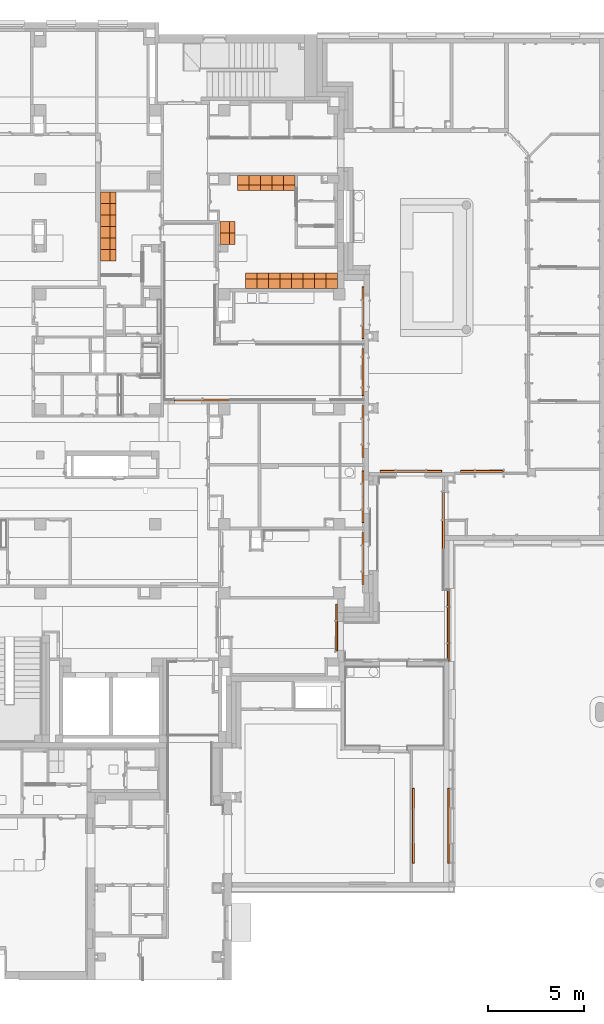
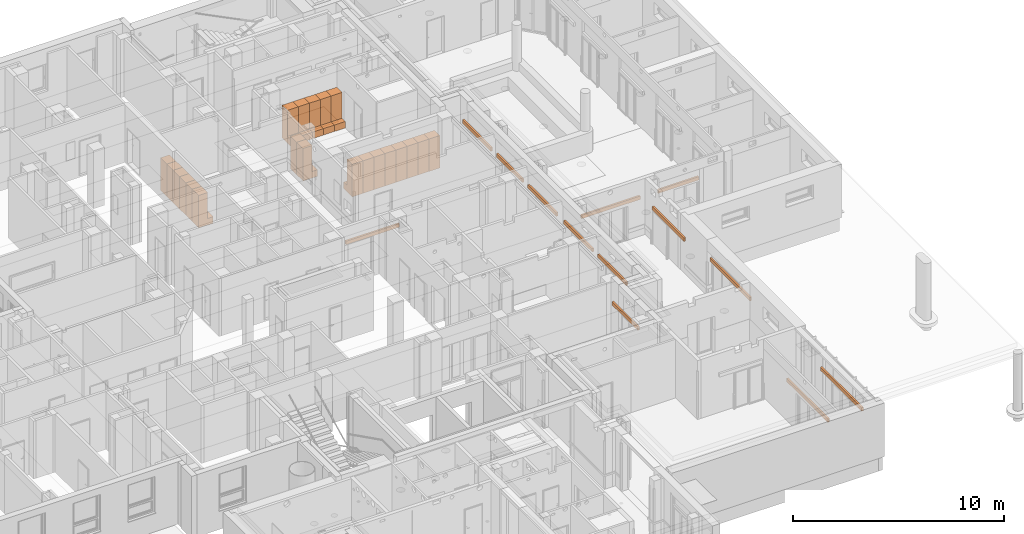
# One storey, part 139 of 140: 34 proxies, 21 elements without a shape of their own.
"""IFC4 building model written with IfcOpenShell, lengths in metres."""

from ifc_helpers import new_model, entity, si_unit, converted_unit, derived_unit, frame, origin, place, context, subcontext, project, spatial, faceted_brep, material, element, aggregate, save


model = new_model("IFC4")

# Units and contexts
model_context = context("Model", 3, precision=1e-05, world=origin())
body_context = subcontext(model_context, "Body", "Model", "MODEL_VIEW")
ifc_project = project(units=[si_unit("LENGTHUNIT", "METRE"), si_unit("AREAUNIT", "SQUARE_METRE"), si_unit("VOLUMEUNIT", "CUBIC_METRE"), si_unit("MASSUNIT", "GRAM", prefix="KILO"), converted_unit("PLANEANGLEUNIT", "DEGREE", entity("IfcPlaneAngleMeasure", 0.0174532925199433), si_unit("PLANEANGLEUNIT", "RADIAN"), dimensions=[0, 0, 0, 0, 0, 0, 0]), derived_unit("THERMALTRANSMITTANCEUNIT", [(si_unit("POWERUNIT", "WATT"), 1), (si_unit("THERMODYNAMICTEMPERATUREUNIT", "KELVIN"), -1), (si_unit("LENGTHUNIT", "METRE"), -2)]), derived_unit("VOLUMETRICFLOWRATEUNIT", [(si_unit("LENGTHUNIT", "METRE"), 3), (converted_unit("TIMEUNIT", "hour", entity("IfcTimeMeasure", 3600.0), si_unit("TIMEUNIT", "SECOND"), dimensions=[0, 0, 1, 0, 0, 0, 0]), -1), (si_unit("LENGTHUNIT", "METRE"), -1)])], contexts=[model_context])

# Site, building, storey
site_placement = place(None, origin())
site = spatial("IfcSite", under=ifc_project, at=site_placement, Name="3. ASŘ", CompositionType="ELEMENT")
building_placement = place(site_placement, origin())
building = spatial("IfcBuilding", under=site, at=building_placement, Name="Pavilon C", CompositionType="ELEMENT")
storey_placement = place(building_placement, origin())
storey = spatial("IfcBuildingStorey", under=building, at=storey_placement, Name="Půdorys 1.NP", CompositionType="ELEMENT", Elevation=0.0)

# Proxies
ifc_material_1 = material(Name="DVEŘNÍ POHON")
proxy_1_placement = place(storey_placement, frame((53.78, -10.4999999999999, 2.1)))
element("IfcBuildingElementProxy", 1, at=proxy_1_placement, inside=storey, material=ifc_material_1, context=body_context, shape_type="Brep", body=[
    faceted_brep([(0.0, 0.0, 0.0), (0.1, 0.0, 0.0), (0.1, 3.9, 0.0), (0.0, 3.9, 0.0), (0.1, 0.0, 0.2), (0.0, 0.0, 0.2), (0.0, 3.9, 0.2), (0.1, 3.9, 0.2)], [[[0, 1, 2, 3]], [[4, 5, 6, 7]], [[1, 0, 5, 4]], [[2, 1, 4, 7]], [[3, 2, 7, 6]], [[0, 3, 6, 5]]], orient=[[False], [False], [False], [False], [False], [False]]),
])
ifc_material_2 = material(Name="DVEŘNÍ POHON")
proxy_2_placement = place(storey_placement, frame((55.63, -10.4999999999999, 2.1)))
element("IfcBuildingElementProxy", 2, at=proxy_2_placement, inside=storey, material=ifc_material_2, context=body_context, shape_type="Brep", body=[
    faceted_brep([(2.91038304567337e-14, 0.0, 0.0), (0.100000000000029, 0.0, 0.0), (0.1, 3.90000000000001, 0.0), (0.0, 3.90000000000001, 0.0), (0.100000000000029, 0.0, 0.2), (2.91038304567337e-14, 0.0, 0.2), (0.0, 3.90000000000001, 0.2), (0.1, 3.90000000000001, 0.2)], [[[0, 1, 2, 3]], [[4, 5, 6, 7]], [[1, 0, 5, 4]], [[2, 1, 4, 7]], [[3, 2, 7, 6]], [[0, 3, 6, 5]]], orient=[[False], [False], [False], [False], [False], [False]]),
])
ifc_material_3 = material(Name="DVEŘNÍ POHON")
proxy_3_placement = place(storey_placement, frame((49.78, 0.58, 2.1)))
element("IfcBuildingElementProxy", 3, at=proxy_3_placement, inside=storey, material=ifc_material_3, context=body_context, shape_type="Brep", body=[
    faceted_brep([(0.0, 0.0, 0.0), (0.1, 0.0, 0.0), (0.1, 2.43999999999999, 0.0), (0.0, 2.43999999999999, 0.0), (0.1, 0.0, 0.2), (0.0, 0.0, 0.2), (0.0, 2.43999999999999, 0.2), (0.1, 2.43999999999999, 0.2)], [[[0, 1, 2, 3]], [[4, 5, 6, 7]], [[1, 0, 5, 4]], [[2, 1, 4, 7]], [[3, 2, 7, 6]], [[0, 3, 6, 5]]], orient=[[False], [False], [False], [False], [False], [False]]),
])
ifc_material_4 = material(Name="DVEŘNÍ POHON")
proxy_4_placement = place(storey_placement, frame((41.352, 13.625, 2.1)))
element("IfcBuildingElementProxy", 4, at=proxy_4_placement, inside=storey, material=ifc_material_4, context=body_context, shape_type="Brep", body=[
    faceted_brep([(2.923, 0.0, 0.0), (2.923, 0.1, 0.0), (0.0, 0.1, 0.0), (0.0, 0.0, 0.0), (2.923, 0.1, 0.2), (2.923, 0.0, 0.2), (0.0, 0.0, 0.2), (0.0, 0.1, 0.2)], [[[0, 1, 2, 3]], [[4, 5, 6, 7]], [[1, 0, 5, 4]], [[2, 1, 4, 7]], [[3, 2, 7, 6]], [[0, 3, 6, 5]]], orient=[[False], [False], [False], [False], [False], [False]]),
])
ifc_material_5 = material(Name="DVEŘNÍ POHON")
proxy_5_placement = place(storey_placement, frame((55.6, 0.0299999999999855, 2.1)))
element("IfcBuildingElementProxy", 5, at=proxy_5_placement, inside=storey, material=ifc_material_5, context=body_context, shape_type="Brep", body=[
    faceted_brep([(1.45519152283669e-14, -1.06581410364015e-17, 0.0), (0.100000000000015, -1.06581410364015e-17, 0.0), (0.1, 3.8, 0.0), (0.0, 3.8, 0.0), (0.100000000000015, -1.06581410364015e-17, 0.2), (1.45519152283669e-14, -1.06581410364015e-17, 0.2), (0.0, 3.8, 0.2), (0.1, 3.8, 0.2)], [[[0, 1, 2, 3]], [[4, 5, 6, 7]], [[1, 0, 5, 4]], [[2, 1, 4, 7]], [[3, 2, 7, 6]], [[0, 3, 6, 5]]], orient=[[False], [False], [False], [False], [False], [False]]),
])
ifc_material_6 = material(Name="DVEŘNÍ POHON")
proxy_6_placement = place(storey_placement, frame((51.15, 4.04999999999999, 2.1)))
element("IfcBuildingElementProxy", 6, at=proxy_6_placement, inside=storey, material=ifc_material_6, context=body_context, shape_type="Brep", body=[
    faceted_brep([(0.0, 0.0, 0.0), (0.1, 0.0, 0.0), (0.1, 2.7, 0.0), (0.0, 2.7, 0.0), (0.1, 0.0, 0.2), (0.0, 0.0, 0.2), (0.0, 2.7, 0.2), (0.1, 2.7, 0.2)], [[[0, 1, 2, 3]], [[4, 5, 6, 7]], [[1, 0, 5, 4]], [[2, 1, 4, 7]], [[3, 2, 7, 6]], [[0, 3, 6, 5]]], orient=[[False], [False], [False], [False], [False], [False]]),
])
ifc_material_7 = material(Name="DVEŘNÍ POHON")
proxy_7_placement = place(storey_placement, frame((51.15, 7.27499999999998, 2.1)))
element("IfcBuildingElementProxy", 7, at=proxy_7_placement, inside=storey, material=ifc_material_7, context=body_context, shape_type="Brep", body=[
    faceted_brep([(0.0, 0.0, 0.0), (0.1, 0.0, 0.0), (0.1, 2.7, 0.0), (0.0, 2.7, 0.0), (0.1, 0.0, 0.2), (0.0, 0.0, 0.2), (0.0, 2.7, 0.2), (0.1, 2.7, 0.2)], [[[0, 1, 2, 3]], [[4, 5, 6, 7]], [[1, 0, 5, 4]], [[2, 1, 4, 7]], [[3, 2, 7, 6]], [[0, 3, 6, 5]]], orient=[[False], [False], [False], [False], [False], [False]]),
])
ifc_material_8 = material(Name="DVEŘNÍ POHON")
proxy_8_placement = place(storey_placement, frame((51.15, 10.675, 2.1)))
element("IfcBuildingElementProxy", 8, at=proxy_8_placement, inside=storey, material=ifc_material_8, context=body_context, shape_type="Brep", body=[
    faceted_brep([(0.0, 0.0, 0.0), (0.1, 0.0, 0.0), (0.1, 2.7, 0.0), (0.0, 2.7, 0.0), (0.1, 0.0, 0.2), (0.0, 0.0, 0.2), (0.0, 2.7, 0.2), (0.1, 2.7, 0.2)], [[[0, 1, 2, 3]], [[4, 5, 6, 7]], [[1, 0, 5, 4]], [[2, 1, 4, 7]], [[3, 2, 7, 6]], [[0, 3, 6, 5]]], orient=[[False], [False], [False], [False], [False], [False]]),
])
ifc_material_9 = material(Name="DVEŘNÍ POHON")
proxy_9_placement = place(storey_placement, frame((51.15, 13.9, 2.1)))
element("IfcBuildingElementProxy", 9, at=proxy_9_placement, inside=storey, material=ifc_material_9, context=body_context, shape_type="Brep", body=[
    faceted_brep([(0.0, 0.0, 0.0), (0.1, 0.0, 0.0), (0.1, 2.45, 0.0), (0.0, 2.45, 0.0), (0.1, 0.0, 0.2), (0.0, 0.0, 0.2), (0.0, 2.45, 0.2), (0.1, 2.45, 0.2)], [[[0, 1, 2, 3]], [[4, 5, 6, 7]], [[1, 0, 5, 4]], [[2, 1, 4, 7]], [[3, 2, 7, 6]], [[0, 3, 6, 5]]], orient=[[False], [False], [False], [False], [False], [False]]),
])
ifc_material_10 = material(Name="DVEŘNÍ POHON")
proxy_10_placement = place(storey_placement, frame((51.15, 16.875, 2.1)))
element("IfcBuildingElementProxy", 10, at=proxy_10_placement, inside=storey, material=ifc_material_10, context=body_context, shape_type="Brep", body=[
    faceted_brep([(0.0, 0.0, 0.0), (0.1, 0.0, 0.0), (0.1, 2.7, 0.0), (0.0, 2.7, 0.0), (0.1, 0.0, 0.2), (0.0, 0.0, 0.2), (0.0, 2.7, 0.2), (0.1, 2.7, 0.2)], [[[0, 1, 2, 3]], [[4, 5, 6, 7]], [[1, 0, 5, 4]], [[2, 1, 4, 7]], [[3, 2, 7, 6]], [[0, 3, 6, 5]]], orient=[[False], [False], [False], [False], [False], [False]]),
])
ifc_material_11 = material(Name="DVEŘNÍ POHON")
proxy_11_placement = place(storey_placement, frame((52.1, 9.89999999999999, 2.1)))
element("IfcBuildingElementProxy", 11, at=proxy_11_placement, inside=storey, material=ifc_material_11, context=body_context, shape_type="Brep", body=[
    faceted_brep([(0.0, 0.1, 0.0), (0.0, 0.0, 0.0), (3.2, 0.0, 0.0), (3.2, 0.1, 0.0), (0.0, 0.0, 0.2), (0.0, 0.1, 0.2), (3.2, 0.1, 0.2), (3.2, 0.0, 0.2)], [[[0, 1, 2, 3]], [[4, 5, 6, 7]], [[1, 0, 5, 4]], [[2, 1, 4, 7]], [[3, 2, 7, 6]], [[0, 3, 6, 5]]], orient=[[False], [False], [False], [False], [False], [False]]),
])
ifc_material_12 = material(Name="DVEŘNÍ POHON")
proxy_12_placement = place(storey_placement, frame((56.292, 9.89999999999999, 2.1)))
element("IfcBuildingElementProxy", 12, at=proxy_12_placement, inside=storey, material=ifc_material_12, context=body_context, shape_type="Brep", body=[
    faceted_brep([(-7.27595761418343e-15, 0.1, 0.0), (-7.27595761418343e-15, 0.0, 0.0), (2.21999999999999, 0.0, 0.0), (2.21999999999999, 0.1, 0.0), (-7.27595761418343e-15, 0.0, 0.2), (-7.27595761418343e-15, 0.1, 0.2), (2.21999999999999, 0.1, 0.2), (2.21999999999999, 0.0, 0.2)], [[[0, 1, 2, 3]], [[4, 5, 6, 7]], [[1, 0, 5, 4]], [[2, 1, 4, 7]], [[3, 2, 7, 6]], [[0, 3, 6, 5]]], orient=[[False], [False], [False], [False], [False], [False]]),
])
ifc_material_13 = material(Name="DVEŘNÍ POHON")
proxy_13_placement = place(storey_placement, frame((55.35, 5.84999999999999, 2.1)))
element("IfcBuildingElementProxy", 13, at=proxy_13_placement, inside=storey, material=ifc_material_13, context=body_context, shape_type="Brep", body=[
    faceted_brep([(0.0, 0.0, 0.0), (0.1, 0.0, 0.0), (0.1, 3.02000000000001, 0.0), (0.0, 3.02000000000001, 0.0), (0.1, 0.0, 0.2), (0.0, 0.0, 0.2), (0.0, 3.02000000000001, 0.2), (0.1, 3.02000000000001, 0.2)], [[[0, 1, 2, 3]], [[4, 5, 6, 7]], [[1, 0, 5, 4]], [[2, 1, 4, 7]], [[3, 2, 7, 6]], [[0, 3, 6, 5]]], orient=[[False], [False], [False], [False], [False], [False]]),
])

# Assembly, proxy
assembly_1_placement = place(storey_placement, origin())
assembly_1 = element("IfcElementAssembly", 14, at=assembly_1_placement, inside=storey, Name="Šatní skříňka s předlavičkou", PredefinedType="NOTDEFINED")
proxy_14_placement = place(assembly_1_placement, frame((43.725, 22.4, 9.0951551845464e-18)))
proxy_14 = element("IfcBuildingElementProxy", 15, at=proxy_14_placement, context=body_context, shape_type="Brep", body=[
    faceted_brep([(1.45519152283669e-14, 0.0, -9.0951551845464e-18), (7.27595761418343e-15, 0.6, -9.0951551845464e-18), (0.0, 0.6, 1.875), (7.27595761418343e-15, 0.0, 1.875), (0.500000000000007, 0.0, 0.375), (0.800000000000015, 1.45519152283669e-14, 0.375), (0.800000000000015, 1.45519152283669e-14, -9.0951551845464e-18), (0.500000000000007, 0.0, 1.875), (0.5, 0.6, 1.875), (0.800000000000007, 0.600000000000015, -9.0951551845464e-18), (0.800000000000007, 0.600000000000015, 0.375), (0.5, 0.6, 0.375)], [[[0, 1, 2, 3]], [[4, 5, 6, 0, 3, 7]], [[2, 8, 7, 3]], [[1, 9, 10, 11, 8, 2]], [[11, 4, 7, 8]], [[11, 10, 5, 4]], [[9, 6, 5, 10]], [[9, 1, 0, 6]]], orient=[[False], [False], [False], [False], [False], [False], [False], [False]]),
])
aggregate(assembly_1, [proxy_14])

assembly_2_placement = place(storey_placement, origin())
assembly_2 = element("IfcElementAssembly", 16, at=assembly_2_placement, inside=storey, Name="Šatní skříňka s předlavičkou", PredefinedType="NOTDEFINED")
proxy_15_placement = place(assembly_2_placement, frame((43.725, 21.8, 9.0951551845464e-18)))
proxy_15 = element("IfcBuildingElementProxy", 17, at=proxy_15_placement, context=body_context, shape_type="Brep", body=[
    faceted_brep([(1.45519152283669e-14, 0.0, -9.0951551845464e-18), (7.27595761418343e-15, 0.6, -9.0951551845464e-18), (0.0, 0.6, 1.875), (7.27595761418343e-15, 0.0, 1.875), (0.500000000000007, 0.0, 0.375), (0.800000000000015, 1.45519152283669e-14, 0.375), (0.800000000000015, 1.45519152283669e-14, -9.0951551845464e-18), (0.500000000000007, 0.0, 1.875), (0.5, 0.6, 1.875), (0.800000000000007, 0.600000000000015, -9.0951551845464e-18), (0.800000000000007, 0.600000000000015, 0.375), (0.5, 0.6, 0.375)], [[[0, 1, 2, 3]], [[4, 5, 6, 0, 3, 7]], [[2, 8, 7, 3]], [[1, 9, 10, 11, 8, 2]], [[11, 4, 7, 8]], [[11, 10, 5, 4]], [[9, 6, 5, 10]], [[9, 1, 0, 6]]], orient=[[False], [False], [False], [False], [False], [False], [False], [False]]),
])
aggregate(assembly_2, [proxy_15])

assembly_3_placement = place(storey_placement, origin())
assembly_3 = element("IfcElementAssembly", 18, at=assembly_3_placement, inside=storey, Name="Šatní skříňka s předlavičkou", PredefinedType="NOTDEFINED")
proxy_16_placement = place(assembly_3_placement, frame((48.68, 19.5, 9.0951551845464e-18)))
proxy_16 = element("IfcBuildingElementProxy", 19, at=proxy_16_placement, context=body_context, shape_type="Brep", body=[
    faceted_brep([(0.600000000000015, 1.45519152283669e-14, -9.0951551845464e-18), (1.45519152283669e-14, 7.27595761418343e-15, -9.0951551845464e-18), (1.45519152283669e-14, 0.0, 1.875), (0.600000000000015, 7.27595761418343e-15, 1.875), (0.600000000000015, 0.500000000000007, 0.375), (0.6, 0.800000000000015, 0.375), (0.6, 0.800000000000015, -9.0951551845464e-18), (0.600000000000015, 0.500000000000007, 1.875), (1.45519152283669e-14, 0.5, 1.875), (0.0, 0.800000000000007, -9.0951551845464e-18), (0.0, 0.800000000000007, 0.375), (1.45519152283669e-14, 0.5, 0.375)], [[[0, 1, 2, 3]], [[4, 5, 6, 0, 3, 7]], [[2, 8, 7, 3]], [[1, 9, 10, 11, 8, 2]], [[11, 4, 7, 8]], [[11, 10, 5, 4]], [[9, 6, 5, 10]], [[9, 1, 0, 6]]], orient=[[False], [False], [False], [False], [False], [False], [False], [False]]),
])
aggregate(assembly_3, [proxy_16])

assembly_4_placement = place(storey_placement, origin())
assembly_4 = element("IfcElementAssembly", 20, at=assembly_4_placement, inside=storey, Name="Šatní skříňka s předlavičkou", PredefinedType="NOTDEFINED")
proxy_17_placement = place(assembly_4_placement, frame((49.28, 19.5, 9.0951551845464e-18)))
proxy_17 = element("IfcBuildingElementProxy", 21, at=proxy_17_placement, context=body_context, shape_type="Brep", body=[
    faceted_brep([(0.600000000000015, 1.45519152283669e-14, -9.0951551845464e-18), (1.45519152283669e-14, 7.27595761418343e-15, -9.0951551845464e-18), (1.45519152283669e-14, 0.0, 1.875), (0.600000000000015, 7.27595761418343e-15, 1.875), (0.600000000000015, 0.500000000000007, 0.375), (0.6, 0.800000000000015, 0.375), (0.6, 0.800000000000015, -9.0951551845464e-18), (0.600000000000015, 0.500000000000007, 1.875), (1.45519152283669e-14, 0.5, 1.875), (0.0, 0.800000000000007, -9.0951551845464e-18), (0.0, 0.800000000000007, 0.375), (1.45519152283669e-14, 0.5, 0.375)], [[[0, 1, 2, 3]], [[4, 5, 6, 0, 3, 7]], [[2, 8, 7, 3]], [[1, 9, 10, 11, 8, 2]], [[11, 4, 7, 8]], [[11, 10, 5, 4]], [[9, 6, 5, 10]], [[9, 1, 0, 6]]], orient=[[False], [False], [False], [False], [False], [False], [False], [False]]),
])
aggregate(assembly_4, [proxy_17])

assembly_5_placement = place(storey_placement, origin())
assembly_5 = element("IfcElementAssembly", 22, at=assembly_5_placement, inside=storey, Name="Šatní skříňka s předlavičkou", PredefinedType="NOTDEFINED")
proxy_18_placement = place(assembly_5_placement, frame((47.48, 19.5000000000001, 9.0951551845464e-18)))
proxy_18 = element("IfcBuildingElementProxy", 23, at=proxy_18_placement, context=body_context, shape_type="Brep", body=[
    faceted_brep([(0.600000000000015, 1.45519152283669e-14, -9.0951551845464e-18), (1.45519152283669e-14, 7.27595761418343e-15, -9.0951551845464e-18), (1.45519152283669e-14, 0.0, 1.875), (0.600000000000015, 7.27595761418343e-15, 1.875), (0.600000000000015, 0.500000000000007, 0.375), (0.6, 0.800000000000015, 0.375), (0.6, 0.800000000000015, -9.0951551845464e-18), (0.600000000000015, 0.500000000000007, 1.875), (1.45519152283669e-14, 0.5, 1.875), (0.0, 0.800000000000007, -9.0951551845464e-18), (0.0, 0.800000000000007, 0.375), (1.45519152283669e-14, 0.5, 0.375)], [[[0, 1, 2, 3]], [[4, 5, 6, 0, 3, 7]], [[2, 8, 7, 3]], [[1, 9, 10, 11, 8, 2]], [[11, 4, 7, 8]], [[11, 10, 5, 4]], [[9, 6, 5, 10]], [[9, 1, 0, 6]]], orient=[[False], [False], [False], [False], [False], [False], [False], [False]]),
])
aggregate(assembly_5, [proxy_18])

assembly_6_placement = place(storey_placement, origin())
assembly_6 = element("IfcElementAssembly", 24, at=assembly_6_placement, inside=storey, Name="Šatní skříňka s předlavičkou", PredefinedType="NOTDEFINED")
proxy_19_placement = place(assembly_6_placement, frame((48.08, 19.5, 9.0951551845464e-18)))
proxy_19 = element("IfcBuildingElementProxy", 25, at=proxy_19_placement, context=body_context, shape_type="Brep", body=[
    faceted_brep([(0.600000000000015, 1.45519152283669e-14, -9.0951551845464e-18), (1.45519152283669e-14, 7.27595761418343e-15, -9.0951551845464e-18), (1.45519152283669e-14, 0.0, 1.875), (0.600000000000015, 7.27595761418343e-15, 1.875), (0.600000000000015, 0.500000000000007, 0.375), (0.6, 0.800000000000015, 0.375), (0.6, 0.800000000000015, -9.0951551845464e-18), (0.600000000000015, 0.500000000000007, 1.875), (1.45519152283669e-14, 0.5, 1.875), (0.0, 0.800000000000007, -9.0951551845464e-18), (0.0, 0.800000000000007, 0.375), (1.45519152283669e-14, 0.5, 0.375)], [[[0, 1, 2, 3]], [[4, 5, 6, 0, 3, 7]], [[2, 8, 7, 3]], [[1, 9, 10, 11, 8, 2]], [[11, 4, 7, 8]], [[11, 10, 5, 4]], [[9, 6, 5, 10]], [[9, 1, 0, 6]]], orient=[[False], [False], [False], [False], [False], [False], [False], [False]]),
])
aggregate(assembly_6, [proxy_19])

assembly_7_placement = place(storey_placement, origin())
assembly_7 = element("IfcElementAssembly", 26, at=assembly_7_placement, inside=storey, Name="Šatní skříňka s předlavičkou", PredefinedType="NOTDEFINED")
proxy_20_placement = place(assembly_7_placement, frame((46.28, 19.5000000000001, 9.0951551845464e-18)))
proxy_20 = element("IfcBuildingElementProxy", 27, at=proxy_20_placement, context=body_context, shape_type="Brep", body=[
    faceted_brep([(0.600000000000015, 1.45519152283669e-14, -9.0951551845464e-18), (1.45519152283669e-14, 7.27595761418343e-15, -9.0951551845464e-18), (1.45519152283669e-14, 0.0, 1.875), (0.600000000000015, 7.27595761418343e-15, 1.875), (0.600000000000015, 0.500000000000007, 0.375), (0.6, 0.800000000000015, 0.375), (0.6, 0.800000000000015, -9.0951551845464e-18), (0.600000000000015, 0.500000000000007, 1.875), (1.45519152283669e-14, 0.5, 1.875), (0.0, 0.800000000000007, -9.0951551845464e-18), (0.0, 0.800000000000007, 0.375), (1.45519152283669e-14, 0.5, 0.375)], [[[0, 1, 2, 3]], [[4, 5, 6, 0, 3, 7]], [[2, 8, 7, 3]], [[1, 9, 10, 11, 8, 2]], [[11, 4, 7, 8]], [[11, 10, 5, 4]], [[9, 6, 5, 10]], [[9, 1, 0, 6]]], orient=[[False], [False], [False], [False], [False], [False], [False], [False]]),
])
aggregate(assembly_7, [proxy_20])

assembly_8_placement = place(storey_placement, origin())
assembly_8 = element("IfcElementAssembly", 28, at=assembly_8_placement, inside=storey, Name="Šatní skříňka s předlavičkou", PredefinedType="NOTDEFINED")
proxy_21_placement = place(assembly_8_placement, frame((46.88, 19.5000000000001, 9.0951551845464e-18)))
proxy_21 = element("IfcBuildingElementProxy", 29, at=proxy_21_placement, context=body_context, shape_type="Brep", body=[
    faceted_brep([(0.600000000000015, 1.45519152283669e-14, -9.0951551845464e-18), (1.45519152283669e-14, 7.27595761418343e-15, -9.0951551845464e-18), (1.45519152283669e-14, 0.0, 1.875), (0.600000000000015, 7.27595761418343e-15, 1.875), (0.600000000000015, 0.500000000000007, 0.375), (0.6, 0.800000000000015, 0.375), (0.6, 0.800000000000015, -9.0951551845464e-18), (0.600000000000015, 0.500000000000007, 1.875), (1.45519152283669e-14, 0.5, 1.875), (0.0, 0.800000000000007, -9.0951551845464e-18), (0.0, 0.800000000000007, 0.375), (1.45519152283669e-14, 0.5, 0.375)], [[[0, 1, 2, 3]], [[4, 5, 6, 0, 3, 7]], [[2, 8, 7, 3]], [[1, 9, 10, 11, 8, 2]], [[11, 4, 7, 8]], [[11, 10, 5, 4]], [[9, 6, 5, 10]], [[9, 1, 0, 6]]], orient=[[False], [False], [False], [False], [False], [False], [False], [False]]),
])
aggregate(assembly_8, [proxy_21])

assembly_9_placement = place(storey_placement, origin())
assembly_9 = element("IfcElementAssembly", 30, at=assembly_9_placement, inside=storey, Name="Šatní skříňka s předlavičkou", PredefinedType="NOTDEFINED")
proxy_22_placement = place(assembly_9_placement, frame((45.08, 19.5000000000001, 9.0951551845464e-18)))
proxy_22 = element("IfcBuildingElementProxy", 31, at=proxy_22_placement, context=body_context, shape_type="Brep", body=[
    faceted_brep([(0.600000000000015, 1.45519152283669e-14, -9.0951551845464e-18), (1.45519152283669e-14, 7.27595761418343e-15, -9.0951551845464e-18), (1.45519152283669e-14, 0.0, 1.875), (0.600000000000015, 7.27595761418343e-15, 1.875), (0.600000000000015, 0.500000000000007, 0.375), (0.6, 0.800000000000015, 0.375), (0.6, 0.800000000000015, -9.0951551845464e-18), (0.600000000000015, 0.500000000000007, 1.875), (1.45519152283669e-14, 0.5, 1.875), (0.0, 0.800000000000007, -9.0951551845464e-18), (0.0, 0.800000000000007, 0.375), (1.45519152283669e-14, 0.5, 0.375)], [[[0, 1, 2, 3]], [[4, 5, 6, 0, 3, 7]], [[2, 8, 7, 3]], [[1, 9, 10, 11, 8, 2]], [[11, 4, 7, 8]], [[11, 10, 5, 4]], [[9, 6, 5, 10]], [[9, 1, 0, 6]]], orient=[[False], [False], [False], [False], [False], [False], [False], [False]]),
])
aggregate(assembly_9, [proxy_22])

assembly_10_placement = place(storey_placement, origin())
assembly_10 = element("IfcElementAssembly", 32, at=assembly_10_placement, inside=storey, Name="Šatní skříňka s předlavičkou", PredefinedType="NOTDEFINED")
proxy_23_placement = place(assembly_10_placement, frame((45.68, 19.5000000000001, 9.0951551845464e-18)))
proxy_23 = element("IfcBuildingElementProxy", 33, at=proxy_23_placement, context=body_context, shape_type="Brep", body=[
    faceted_brep([(0.600000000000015, 1.45519152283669e-14, -9.0951551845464e-18), (1.45519152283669e-14, 7.27595761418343e-15, -9.0951551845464e-18), (1.45519152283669e-14, 0.0, 1.875), (0.600000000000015, 7.27595761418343e-15, 1.875), (0.600000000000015, 0.500000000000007, 0.375), (0.6, 0.800000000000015, 0.375), (0.6, 0.800000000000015, -9.0951551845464e-18), (0.600000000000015, 0.500000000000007, 1.875), (1.45519152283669e-14, 0.5, 1.875), (0.0, 0.800000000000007, -9.0951551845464e-18), (0.0, 0.800000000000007, 0.375), (1.45519152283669e-14, 0.5, 0.375)], [[[0, 1, 2, 3]], [[4, 5, 6, 0, 3, 7]], [[2, 8, 7, 3]], [[1, 9, 10, 11, 8, 2]], [[11, 4, 7, 8]], [[11, 10, 5, 4]], [[9, 6, 5, 10]], [[9, 1, 0, 6]]], orient=[[False], [False], [False], [False], [False], [False], [False], [False]]),
])
aggregate(assembly_10, [proxy_23])

assembly_11_placement = place(storey_placement, origin())
assembly_11 = element("IfcElementAssembly", 34, at=assembly_11_placement, inside=storey, Name="Šatní skříňka s předlavičkou", PredefinedType="NOTDEFINED")
proxy_24_placement = place(assembly_11_placement, frame((45.255, 24.6000000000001, 9.0951551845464e-18)))
proxy_24 = element("IfcBuildingElementProxy", 35, at=proxy_24_placement, context=body_context, shape_type="Brep", body=[
    faceted_brep([(0.0, 0.8, -9.0951551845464e-18), (0.6, 0.800000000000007, -9.0951551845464e-18), (0.6, 0.800000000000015, 1.875), (0.0, 0.800000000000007, 1.875), (0.0, 0.300000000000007, 0.375), (1.45519152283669e-14, 0.0, 0.375), (1.45519152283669e-14, 0.0, -9.0951551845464e-18), (0.0, 0.300000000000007, 1.875), (0.6, 0.300000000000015, 1.875), (0.600000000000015, 7.27595761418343e-15, -9.0951551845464e-18), (0.600000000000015, 7.27595761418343e-15, 0.375), (0.6, 0.300000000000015, 0.375)], [[[0, 1, 2, 3]], [[4, 5, 6, 0, 3, 7]], [[2, 8, 7, 3]], [[1, 9, 10, 11, 8, 2]], [[11, 4, 7, 8]], [[11, 10, 5, 4]], [[9, 6, 5, 10]], [[9, 1, 0, 6]]], orient=[[False], [False], [False], [False], [False], [False], [False], [False]]),
])
aggregate(assembly_11, [proxy_24])

assembly_12_placement = place(storey_placement, origin())
assembly_12 = element("IfcElementAssembly", 36, at=assembly_12_placement, inside=storey, Name="Šatní skříňka s předlavičkou", PredefinedType="NOTDEFINED")
proxy_25_placement = place(assembly_12_placement, frame((44.655, 24.6000000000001, 9.0951551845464e-18)))
proxy_25 = element("IfcBuildingElementProxy", 37, at=proxy_25_placement, context=body_context, shape_type="Brep", body=[
    faceted_brep([(0.0, 0.8, -9.0951551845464e-18), (0.6, 0.800000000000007, -9.0951551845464e-18), (0.6, 0.800000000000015, 1.875), (0.0, 0.800000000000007, 1.875), (0.0, 0.300000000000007, 0.375), (1.45519152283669e-14, 0.0, 0.375), (1.45519152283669e-14, 0.0, -9.0951551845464e-18), (0.0, 0.300000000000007, 1.875), (0.6, 0.300000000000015, 1.875), (0.600000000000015, 7.27595761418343e-15, -9.0951551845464e-18), (0.600000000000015, 7.27595761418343e-15, 0.375), (0.6, 0.300000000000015, 0.375)], [[[0, 1, 2, 3]], [[4, 5, 6, 0, 3, 7]], [[2, 8, 7, 3]], [[1, 9, 10, 11, 8, 2]], [[11, 4, 7, 8]], [[11, 10, 5, 4]], [[9, 6, 5, 10]], [[9, 1, 0, 6]]], orient=[[False], [False], [False], [False], [False], [False], [False], [False]]),
])
aggregate(assembly_12, [proxy_25])

assembly_13_placement = place(storey_placement, origin())
assembly_13 = element("IfcElementAssembly", 38, at=assembly_13_placement, inside=storey, Name="Šatní skříňka s předlavičkou", PredefinedType="NOTDEFINED")
proxy_26_placement = place(assembly_13_placement, frame((46.455, 24.6, 9.0951551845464e-18)))
proxy_26 = element("IfcBuildingElementProxy", 39, at=proxy_26_placement, context=body_context, shape_type="Brep", body=[
    faceted_brep([(0.0, 0.8, -9.0951551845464e-18), (0.6, 0.800000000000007, -9.0951551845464e-18), (0.6, 0.800000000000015, 1.875), (0.0, 0.800000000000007, 1.875), (0.0, 0.300000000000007, 0.375), (1.45519152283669e-14, 0.0, 0.375), (1.45519152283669e-14, 0.0, -9.0951551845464e-18), (0.0, 0.300000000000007, 1.875), (0.6, 0.300000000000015, 1.875), (0.600000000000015, 7.27595761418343e-15, -9.0951551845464e-18), (0.600000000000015, 7.27595761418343e-15, 0.375), (0.6, 0.300000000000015, 0.375)], [[[0, 1, 2, 3]], [[4, 5, 6, 0, 3, 7]], [[2, 8, 7, 3]], [[1, 9, 10, 11, 8, 2]], [[11, 4, 7, 8]], [[11, 10, 5, 4]], [[9, 6, 5, 10]], [[9, 1, 0, 6]]], orient=[[False], [False], [False], [False], [False], [False], [False], [False]]),
])
aggregate(assembly_13, [proxy_26])

assembly_14_placement = place(storey_placement, origin())
assembly_14 = element("IfcElementAssembly", 40, at=assembly_14_placement, inside=storey, Name="Šatní skříňka s předlavičkou", PredefinedType="NOTDEFINED")
proxy_27_placement = place(assembly_14_placement, frame((45.855, 24.6, 9.0951551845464e-18)))
proxy_27 = element("IfcBuildingElementProxy", 41, at=proxy_27_placement, context=body_context, shape_type="Brep", body=[
    faceted_brep([(0.0, 0.8, -9.0951551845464e-18), (0.6, 0.800000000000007, -9.0951551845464e-18), (0.6, 0.800000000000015, 1.875), (0.0, 0.800000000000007, 1.875), (0.0, 0.300000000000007, 0.375), (1.45519152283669e-14, 0.0, 0.375), (1.45519152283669e-14, 0.0, -9.0951551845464e-18), (0.0, 0.300000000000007, 1.875), (0.6, 0.300000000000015, 1.875), (0.600000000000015, 7.27595761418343e-15, -9.0951551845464e-18), (0.600000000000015, 7.27595761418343e-15, 0.375), (0.6, 0.300000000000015, 0.375)], [[[0, 1, 2, 3]], [[4, 5, 6, 0, 3, 7]], [[2, 8, 7, 3]], [[1, 9, 10, 11, 8, 2]], [[11, 4, 7, 8]], [[11, 10, 5, 4]], [[9, 6, 5, 10]], [[9, 1, 0, 6]]], orient=[[False], [False], [False], [False], [False], [False], [False], [False]]),
])
aggregate(assembly_14, [proxy_27])

assembly_15_placement = place(storey_placement, origin())
assembly_15 = element("IfcElementAssembly", 42, at=assembly_15_placement, inside=storey, Name="Šatní skříňka s předlavičkou", PredefinedType="NOTDEFINED")
proxy_28_placement = place(assembly_15_placement, frame((47.055, 24.6, 9.0951551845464e-18)))
proxy_28 = element("IfcBuildingElementProxy", 43, at=proxy_28_placement, context=body_context, shape_type="Brep", body=[
    faceted_brep([(0.0, 0.8, -9.0951551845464e-18), (0.6, 0.800000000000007, -9.0951551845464e-18), (0.6, 0.800000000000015, 1.875), (0.0, 0.800000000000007, 1.875), (0.0, 0.300000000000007, 0.375), (1.45519152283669e-14, 0.0, 0.375), (1.45519152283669e-14, 0.0, -9.0951551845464e-18), (0.0, 0.300000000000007, 1.875), (0.6, 0.300000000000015, 1.875), (0.600000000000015, 7.27595761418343e-15, -9.0951551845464e-18), (0.600000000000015, 7.27595761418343e-15, 0.375), (0.6, 0.300000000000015, 0.375)], [[[0, 1, 2, 3]], [[4, 5, 6, 0, 3, 7]], [[2, 8, 7, 3]], [[1, 9, 10, 11, 8, 2]], [[11, 4, 7, 8]], [[11, 10, 5, 4]], [[9, 6, 5, 10]], [[9, 1, 0, 6]]], orient=[[False], [False], [False], [False], [False], [False], [False], [False]]),
])
aggregate(assembly_15, [proxy_28])

assembly_16_placement = place(storey_placement, origin())
assembly_16 = element("IfcElementAssembly", 44, at=assembly_16_placement, inside=storey, Name="Šatní skříňka s předlavičkou", PredefinedType="NOTDEFINED")
proxy_29_placement = place(assembly_16_placement, frame((37.4999999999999, 20.92, 9.0951551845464e-18)))
proxy_29 = element("IfcBuildingElementProxy", 45, at=proxy_29_placement, context=body_context, shape_type="Brep", body=[
    faceted_brep([(1.45519152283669e-14, 0.0, -9.0951551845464e-18), (7.27595761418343e-15, 0.6, -9.0951551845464e-18), (0.0, 0.6, 1.875), (7.27595761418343e-15, 0.0, 1.875), (0.500000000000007, 0.0, 0.375), (0.800000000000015, 1.45519152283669e-14, 0.375), (0.800000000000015, 1.45519152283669e-14, -9.0951551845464e-18), (0.500000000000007, 0.0, 1.875), (0.5, 0.6, 1.875), (0.800000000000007, 0.600000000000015, -9.0951551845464e-18), (0.800000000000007, 0.600000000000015, 0.375), (0.5, 0.6, 0.375)], [[[0, 1, 2, 3]], [[4, 5, 6, 0, 3, 7]], [[2, 8, 7, 3]], [[1, 9, 10, 11, 8, 2]], [[11, 4, 7, 8]], [[11, 10, 5, 4]], [[9, 6, 5, 10]], [[9, 1, 0, 6]]], orient=[[False], [False], [False], [False], [False], [False], [False], [False]]),
])
aggregate(assembly_16, [proxy_29])

assembly_17_placement = place(storey_placement, origin())
assembly_17 = element("IfcElementAssembly", 46, at=assembly_17_placement, inside=storey, Name="Šatní skříňka s předlavičkou", PredefinedType="NOTDEFINED")
proxy_30_placement = place(assembly_17_placement, frame((37.4999999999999, 21.52, 9.0951551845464e-18)))
proxy_30 = element("IfcBuildingElementProxy", 47, at=proxy_30_placement, context=body_context, shape_type="Brep", body=[
    faceted_brep([(1.45519152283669e-14, 0.0, -9.0951551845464e-18), (7.27595761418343e-15, 0.6, -9.0951551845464e-18), (0.0, 0.6, 1.875), (7.27595761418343e-15, 0.0, 1.875), (0.500000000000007, 0.0, 0.375), (0.800000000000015, 1.45519152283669e-14, 0.375), (0.800000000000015, 1.45519152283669e-14, -9.0951551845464e-18), (0.500000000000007, 0.0, 1.875), (0.5, 0.6, 1.875), (0.800000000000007, 0.600000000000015, -9.0951551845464e-18), (0.800000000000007, 0.600000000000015, 0.375), (0.5, 0.6, 0.375)], [[[0, 1, 2, 3]], [[4, 5, 6, 0, 3, 7]], [[2, 8, 7, 3]], [[1, 9, 10, 11, 8, 2]], [[11, 4, 7, 8]], [[11, 10, 5, 4]], [[9, 6, 5, 10]], [[9, 1, 0, 6]]], orient=[[False], [False], [False], [False], [False], [False], [False], [False]]),
])
aggregate(assembly_17, [proxy_30])

assembly_18_placement = place(storey_placement, origin())
assembly_18 = element("IfcElementAssembly", 48, at=assembly_18_placement, inside=storey, Name="Šatní skříňka s předlavičkou", PredefinedType="NOTDEFINED")
proxy_31_placement = place(assembly_18_placement, frame((37.4999999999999, 22.12, 9.0951551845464e-18)))
proxy_31 = element("IfcBuildingElementProxy", 49, at=proxy_31_placement, context=body_context, shape_type="Brep", body=[
    faceted_brep([(1.45519152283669e-14, 0.0, -9.0951551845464e-18), (7.27595761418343e-15, 0.6, -9.0951551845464e-18), (0.0, 0.6, 1.875), (7.27595761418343e-15, 0.0, 1.875), (0.500000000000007, 0.0, 0.375), (0.800000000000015, 1.45519152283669e-14, 0.375), (0.800000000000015, 1.45519152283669e-14, -9.0951551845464e-18), (0.500000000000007, 0.0, 1.875), (0.5, 0.6, 1.875), (0.800000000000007, 0.600000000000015, -9.0951551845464e-18), (0.800000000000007, 0.600000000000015, 0.375), (0.5, 0.6, 0.375)], [[[0, 1, 2, 3]], [[4, 5, 6, 0, 3, 7]], [[2, 8, 7, 3]], [[1, 9, 10, 11, 8, 2]], [[11, 4, 7, 8]], [[11, 10, 5, 4]], [[9, 6, 5, 10]], [[9, 1, 0, 6]]], orient=[[False], [False], [False], [False], [False], [False], [False], [False]]),
])
aggregate(assembly_18, [proxy_31])

assembly_19_placement = place(storey_placement, origin())
assembly_19 = element("IfcElementAssembly", 50, at=assembly_19_placement, inside=storey, Name="Šatní skříňka s předlavičkou", PredefinedType="NOTDEFINED")
proxy_32_placement = place(assembly_19_placement, frame((37.4999999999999, 22.72, 9.0951551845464e-18)))
proxy_32 = element("IfcBuildingElementProxy", 51, at=proxy_32_placement, context=body_context, shape_type="Brep", body=[
    faceted_brep([(1.45519152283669e-14, 0.0, -9.0951551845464e-18), (7.27595761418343e-15, 0.6, -9.0951551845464e-18), (0.0, 0.6, 1.875), (7.27595761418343e-15, 0.0, 1.875), (0.500000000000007, 0.0, 0.375), (0.800000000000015, 1.45519152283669e-14, 0.375), (0.800000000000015, 1.45519152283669e-14, -9.0951551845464e-18), (0.500000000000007, 0.0, 1.875), (0.5, 0.6, 1.875), (0.800000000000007, 0.600000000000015, -9.0951551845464e-18), (0.800000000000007, 0.600000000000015, 0.375), (0.5, 0.6, 0.375)], [[[0, 1, 2, 3]], [[4, 5, 6, 0, 3, 7]], [[2, 8, 7, 3]], [[1, 9, 10, 11, 8, 2]], [[11, 4, 7, 8]], [[11, 10, 5, 4]], [[9, 6, 5, 10]], [[9, 1, 0, 6]]], orient=[[False], [False], [False], [False], [False], [False], [False], [False]]),
])
aggregate(assembly_19, [proxy_32])

assembly_20_placement = place(storey_placement, origin())
assembly_20 = element("IfcElementAssembly", 52, at=assembly_20_placement, inside=storey, Name="Šatní skříňka s předlavičkou", PredefinedType="NOTDEFINED")
proxy_33_placement = place(assembly_20_placement, frame((37.5, 23.32, 9.0951551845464e-18)))
proxy_33 = element("IfcBuildingElementProxy", 53, at=proxy_33_placement, context=body_context, shape_type="Brep", body=[
    faceted_brep([(1.45519152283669e-14, 0.0, -9.0951551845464e-18), (7.27595761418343e-15, 0.6, -9.0951551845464e-18), (0.0, 0.6, 1.875), (7.27595761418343e-15, 0.0, 1.875), (0.500000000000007, 0.0, 0.375), (0.800000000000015, 1.45519152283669e-14, 0.375), (0.800000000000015, 1.45519152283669e-14, -9.0951551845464e-18), (0.500000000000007, 0.0, 1.875), (0.5, 0.6, 1.875), (0.800000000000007, 0.600000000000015, -9.0951551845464e-18), (0.800000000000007, 0.600000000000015, 0.375), (0.5, 0.6, 0.375)], [[[0, 1, 2, 3]], [[4, 5, 6, 0, 3, 7]], [[2, 8, 7, 3]], [[1, 9, 10, 11, 8, 2]], [[11, 4, 7, 8]], [[11, 10, 5, 4]], [[9, 6, 5, 10]], [[9, 1, 0, 6]]], orient=[[False], [False], [False], [False], [False], [False], [False], [False]]),
])
aggregate(assembly_20, [proxy_33])

assembly_21_placement = place(storey_placement, origin())
assembly_21 = element("IfcElementAssembly", 54, at=assembly_21_placement, inside=storey, Name="Šatní skříňka s předlavičkou", PredefinedType="NOTDEFINED")
proxy_34_placement = place(assembly_21_placement, frame((37.5, 23.92, 9.0951551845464e-18)))
proxy_34 = element("IfcBuildingElementProxy", 55, at=proxy_34_placement, context=body_context, shape_type="Brep", body=[
    faceted_brep([(1.45519152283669e-14, 0.0, -9.0951551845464e-18), (7.27595761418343e-15, 0.6, -9.0951551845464e-18), (0.0, 0.6, 1.875), (7.27595761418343e-15, 0.0, 1.875), (0.500000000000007, 0.0, 0.375), (0.800000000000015, 1.45519152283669e-14, 0.375), (0.800000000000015, 1.45519152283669e-14, -9.0951551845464e-18), (0.500000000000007, 0.0, 1.875), (0.5, 0.6, 1.875), (0.800000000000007, 0.600000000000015, -9.0951551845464e-18), (0.800000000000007, 0.600000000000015, 0.375), (0.5, 0.6, 0.375)], [[[0, 1, 2, 3]], [[4, 5, 6, 0, 3, 7]], [[2, 8, 7, 3]], [[1, 9, 10, 11, 8, 2]], [[11, 4, 7, 8]], [[11, 10, 5, 4]], [[9, 6, 5, 10]], [[9, 1, 0, 6]]], orient=[[False], [False], [False], [False], [False], [False], [False], [False]]),
])
aggregate(assembly_21, [proxy_34])

save(model, "model.ifc")
